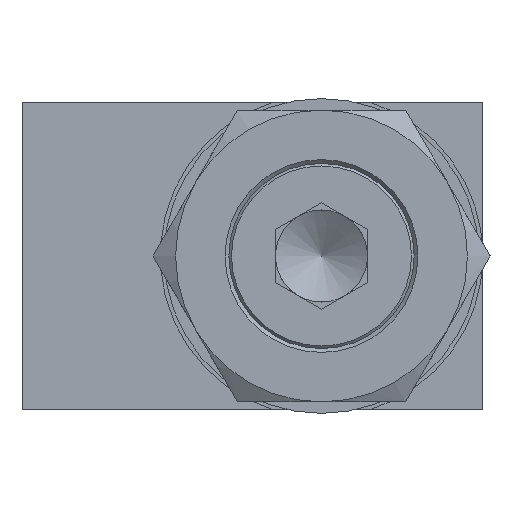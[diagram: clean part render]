
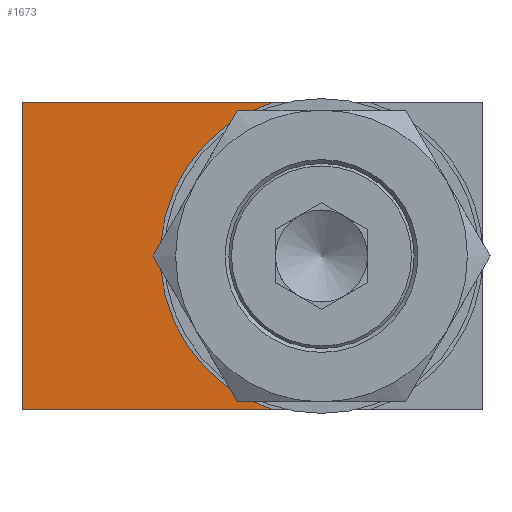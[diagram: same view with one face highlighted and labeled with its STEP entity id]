
A CAD part, left-side view. The second image highlights one B-rep face of the part: STEP entity #1673.
In plain terms, the highlighted planar face has unit normal (-1, 0, 0).
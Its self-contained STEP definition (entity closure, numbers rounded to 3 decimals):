
#94=PLANE('',#1842);
#176=FACE_OUTER_BOUND('',#278,.T.);
#278=EDGE_LOOP('',(#1189,#1190,#1191,#1192));
#397=LINE('',#2632,#474);
#405=LINE('',#2666,#482);
#407=LINE('',#2669,#484);
#474=VECTOR('',#2081,10.);
#482=VECTOR('',#2121,10.);
#484=VECTOR('',#2125,10.);
#562=CIRCLE('',#1843,21.);
#674=VERTEX_POINT('',#2620);
#679=VERTEX_POINT('',#2630);
#688=VERTEX_POINT('',#2663);
#689=VERTEX_POINT('',#2665);
#860=EDGE_CURVE('',#674,#679,#397,.T.);
#877=EDGE_CURVE('',#689,#688,#405,.T.);
#879=EDGE_CURVE('',#689,#679,#407,.T.);
#887=EDGE_CURVE('',#688,#674,#562,.T.);
#1189=ORIENTED_EDGE('',*,*,#887,.T.);
#1190=ORIENTED_EDGE('',*,*,#860,.T.);
#1191=ORIENTED_EDGE('',*,*,#879,.F.);
#1192=ORIENTED_EDGE('',*,*,#877,.T.);
#1673=ADVANCED_FACE('',(#176),#94,.T.);
#1842=AXIS2_PLACEMENT_3D('',#2684,#2141,#2142);
#1843=AXIS2_PLACEMENT_3D('',#2685,#2143,#2144);
#2081=DIRECTION('',(0.,1.,0.));
#2121=DIRECTION('',(0.,-1.,0.));
#2125=DIRECTION('',(0.,0.,1.));
#2141=DIRECTION('center_axis',(-1.,0.,0.));
#2142=DIRECTION('ref_axis',(0.,0.,1.));
#2143=DIRECTION('center_axis',(1.,0.,0.));
#2144=DIRECTION('ref_axis',(0.,0.,1.));
#2620=CARTESIAN_POINT('',(-50.,2.403,20.));
#2630=CARTESIAN_POINT('',(-50.,35.,20.));
#2632=CARTESIAN_POINT('',(-50.,35.,20.));
#2663=CARTESIAN_POINT('',(-50.,2.403,-20.));
#2665=CARTESIAN_POINT('',(-50.,35.,-20.));
#2666=CARTESIAN_POINT('',(-50.,35.,-20.));
#2669=CARTESIAN_POINT('',(-50.,35.,0.));
#2684=CARTESIAN_POINT('Origin',(-50.,-25.,0.));
#2685=CARTESIAN_POINT('Origin',(-50.,-4.,0.));
